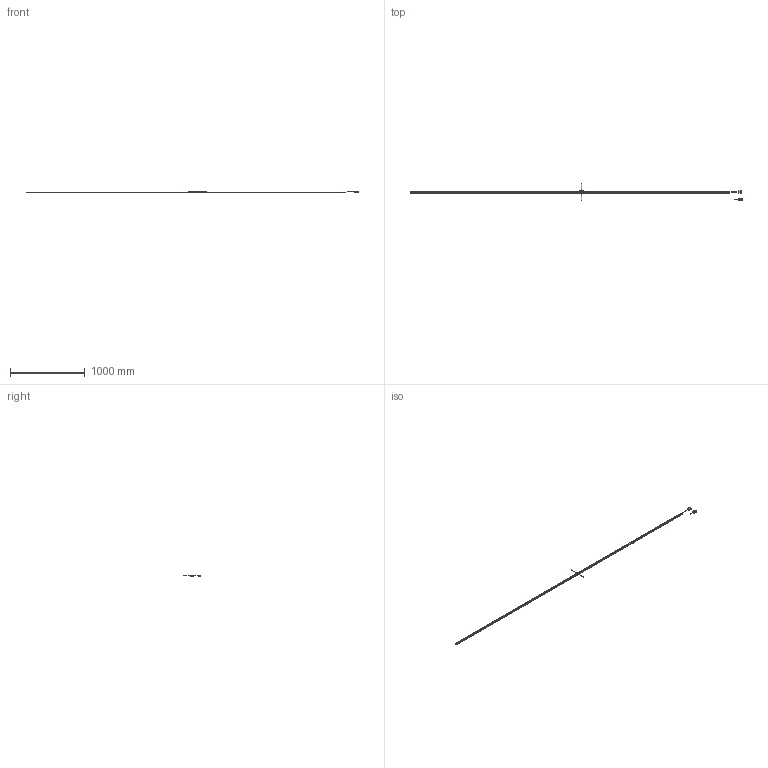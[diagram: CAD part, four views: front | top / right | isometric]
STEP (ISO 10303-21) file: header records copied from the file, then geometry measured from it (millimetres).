
FILE_DESCRIPTION(('Creo Elements/Direct Modeling STEP Export'),'2;1');
FILE_NAME('ABS_ST700-4200A.stp','2018-02-14T13:25:20',(''),(''),'Creo Elements/Direct Modeling STEP processor for AP214 (Solid Model)','Creo Elements/Direct Modeling 18.1B 29-Sep-2012 (C) Parametric Technology GmbH','');
FILE_SCHEMA(('AUTOMOTIVE_DESIGN { 1 0 10303 214 1 1 1 1 }'));
Length unit declared in the file: millimetre
Products named in the file (10): Scale_4200; Connector（Dsub15pin）; Connector（Dsub9pin）; Connector; Detector_Head_D; Detector_Head_L; Detector_Head_R; Detector_Head_U; Detector_Head; ABS_ST700L-4200A
Assembly tree (9 placements, depth 3):
  ABS_ST700L-4200A
    Detector_Head
      Detector_Head_U
      Detector_Head_R
      Detector_Head_L
      Detector_Head_D
    Connector
      Connector（Dsub9pin）
      Connector（Dsub15pin）
    Scale_4200
Bounding box: 4444.5 x 227.7 x 23.3 mm (x, y, z)
Volume: 865731 mm3; surface area: 319689.3 mm2
Topology: 8 solids, 8 shells, 6911 faces, 18922 edges, 12450 vertices
Faces by surface type: plane 5367, cylinder 1229, cone 189, torus 58, extrusion 36, bspline 24, revolution 8
Entity records: 221124 total; most frequent: CARTESIAN_POINT 45470, ORIENTED_EDGE 37764, DIRECTION 34073, EDGE_CURVE 18882, VECTOR 15895, LINE 15879, VERTEX_POINT 12448, AXIS2_PLACEMENT_3D 9083
